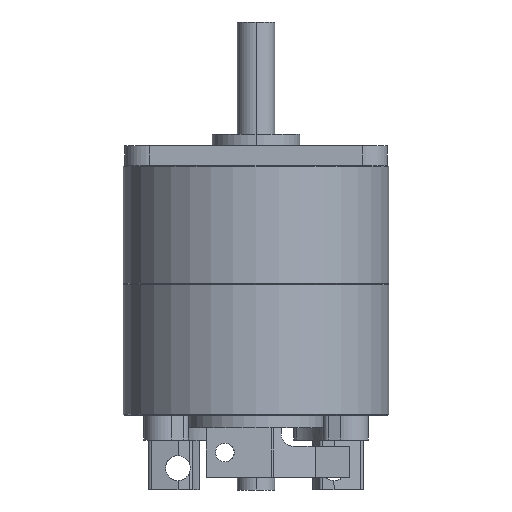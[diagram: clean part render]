
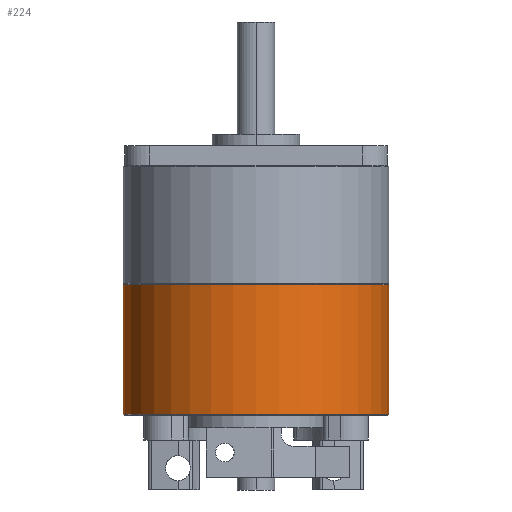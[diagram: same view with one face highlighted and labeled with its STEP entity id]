
A CAD part, front view. The second image highlights one B-rep face of the part: STEP entity #224.
In plain terms, the highlighted cylindrical face has radius 21.25 mm (diameter 42.5 mm), a partial arc.
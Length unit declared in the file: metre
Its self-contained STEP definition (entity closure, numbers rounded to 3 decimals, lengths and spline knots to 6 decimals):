
#224 = ADVANCED_FACE ( 'NONE', ( #3116 ), #2721, .T. ) ;
#509 = VERTEX_POINT ( 'NONE', #8399 ) ;
#526 = EDGE_LOOP ( 'NONE', ( #12078, #11446, #11817, #9714 ) ) ;
#1769 = AXIS2_PLACEMENT_3D ( 'NONE', #10933, #2825, #12319 ) ;
#2721 = CYLINDRICAL_SURFACE ( 'NONE', #10549, 0.02125 ) ;
#2825 = DIRECTION ( 'NONE',  ( 0., 0., 1. ) ) ;
#3116 = FACE_OUTER_BOUND ( 'NONE', #526, .T. ) ;
#3225 = VERTEX_POINT ( 'NONE', #13625 ) ;
#4033 = CIRCLE ( 'NONE', #1769, 0.02125 ) ;
#4897 = LINE ( 'NONE', #5728, #8113 ) ;
#5133 = AXIS2_PLACEMENT_3D ( 'NONE', #5404, #14693, #6767 ) ;
#5404 = CARTESIAN_POINT ( 'NONE',  ( 0., 0., -0.0209 ) ) ;
#5728 = CARTESIAN_POINT ( 'NONE',  ( 0.02125, 0., -0.0209 ) ) ;
#6629 = DIRECTION ( 'NONE',  ( 1., 0., 0. ) ) ;
#6685 = CARTESIAN_POINT ( 'NONE',  ( 0., 0., -0.0209 ) ) ;
#6732 = DIRECTION ( 'NONE',  ( 0., 0., 1. ) ) ;
#6767 = DIRECTION ( 'NONE',  ( 1., 0., 0. ) ) ;
#6932 = DIRECTION ( 'NONE',  ( 0., 0., 1. ) ) ;
#8097 = CIRCLE ( 'NONE', #5133, 0.02125 ) ;
#8113 = VECTOR ( 'NONE', #14964, 1. ) ;
#8399 = CARTESIAN_POINT ( 'NONE',  ( -0.02125, 0., -0.0209 ) ) ;
#8524 = VECTOR ( 'NONE', #6932, 1. ) ;
#8713 = CARTESIAN_POINT ( 'NONE',  ( 0.02125, 0., -0.0001 ) ) ;
#9714 = ORIENTED_EDGE ( 'NONE', *, *, #15209, .F. ) ;
#9823 = LINE ( 'NONE', #13688, #8524 ) ;
#10475 = VERTEX_POINT ( 'NONE', #10773 ) ;
#10549 = AXIS2_PLACEMENT_3D ( 'NONE', #6685, #6732, #6629 ) ;
#10773 = CARTESIAN_POINT ( 'NONE',  ( 0.02125, 0., -0.0209 ) ) ;
#10886 = VERTEX_POINT ( 'NONE', #8713 ) ;
#10933 = CARTESIAN_POINT ( 'NONE',  ( 0., 0., -0.0001 ) ) ;
#11446 = ORIENTED_EDGE ( 'NONE', *, *, #15227, .T. ) ;
#11817 = ORIENTED_EDGE ( 'NONE', *, *, #14617, .T. ) ;
#12078 = ORIENTED_EDGE ( 'NONE', *, *, #14590, .F. ) ;
#12319 = DIRECTION ( 'NONE',  ( 1., 0., 0. ) ) ;
#13625 = CARTESIAN_POINT ( 'NONE',  ( -0.02125, 0., -0.0001 ) ) ;
#13688 = CARTESIAN_POINT ( 'NONE',  ( -0.02125, 0., -0.0209 ) ) ;
#14590 = EDGE_CURVE ( 'NONE', #509, #3225, #9823, .T. ) ;
#14617 = EDGE_CURVE ( 'NONE', #10475, #10886, #4897, .T. ) ;
#14693 = DIRECTION ( 'NONE',  ( 0., 0., 1. ) ) ;
#14964 = DIRECTION ( 'NONE',  ( 0., 0., 1. ) ) ;
#15209 = EDGE_CURVE ( 'NONE', #3225, #10886, #4033, .T. ) ;
#15227 = EDGE_CURVE ( 'NONE', #509, #10475, #8097, .T. ) ;
